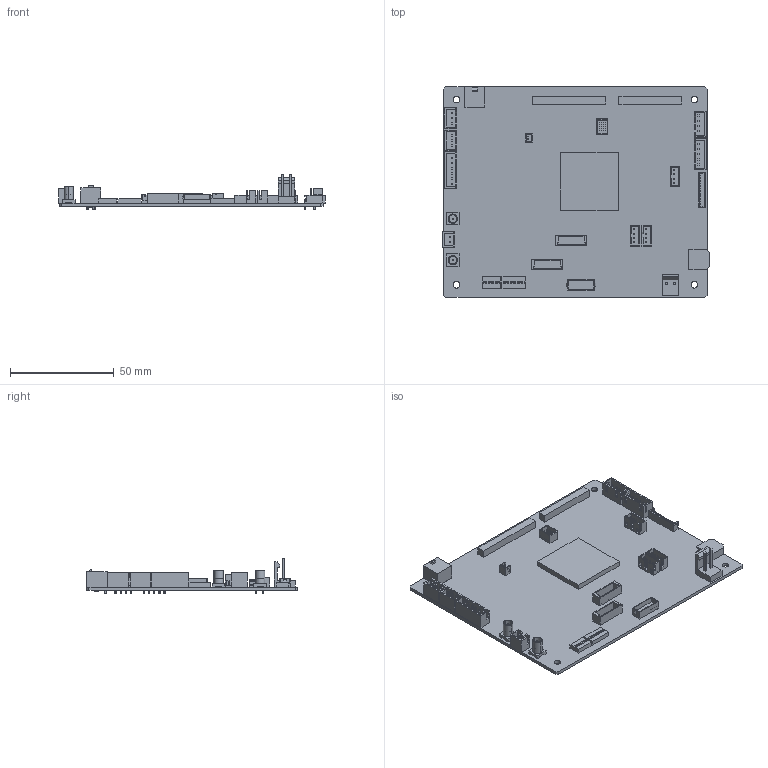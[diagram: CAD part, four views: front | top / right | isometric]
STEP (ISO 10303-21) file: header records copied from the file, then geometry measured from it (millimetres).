
FILE_DESCRIPTION (( 'STEP AP203' ), '1' );
FILE_NAME ('Assy PCB HX-2560-SDI V2 417800000-3 211101.STEP', '2021-11-02T00:32:26', ( '' ), ( '' ), 'SwSTEP 2.0', 'SolidWorks 2020', '' );
FILE_SCHEMA (( 'CONFIG_CONTROL_DESIGN' ));
Length unit declared in the file: inch
Products named in the file (21): 190010805-3 DIP Switch 8P Horz; 210010004-3 2.5-F-04p; 210082604-3 Power Plug 2x2; 212051001-3 Micro BNC SMT Vert Yin Sheng MSB-013_1C20Z6B0B0; 215090241-3 LVDS 41 pin; 210006521-5 Conn 21P Vert 1.0mm Pitch; 190010605-3 DIP Switch 6P Horz; 210010005-3 2.5-F-05p; 210010003-3 2.5-F-03p; 210061102-3 1.25-F-2P; 210010006-3 2.5-F-06p; PCB HX-2560-SDI V2 017300000-5 211027; 210018004-3 PH Conn 2.0-F-04p; 210006420-5 Conn Vert 20P; 210061112-3 1.25-F-12P; 215090251-3 LVDS 51 pin; 210010002-3 2.5-F-02p; 210062710-3 Hdr Vert 10P Dual; 210082402-3 Power 2P RA; 210082102-3 Hdr 2P Vert Lkg; Assy PCB HX-2560-SDI V2 417800000-3 211101
Assembly tree (25 placements, depth 2):
  Assy PCB HX-2560-SDI V2 417800000-3 211101
    PCB HX-2560-SDI V2 017300000-5 211027
    190010605-3 DIP Switch 6P Horz
    190010805-3 DIP Switch 8P Horz
    210010003-3 2.5-F-03p  x2
    210010004-3 2.5-F-04p
    210010005-3 2.5-F-05p
    210010006-3 2.5-F-06p
    210082102-3 Hdr 2P Vert Lkg
    210082402-3 Power 2P RA
    210082604-3 Power Plug 2x2
    215090241-3 LVDS 41 pin
    215090251-3 LVDS 51 pin
    210006521-5 Conn 21P Vert 1.0mm Pitch  x2
    210061102-3 1.25-F-2P
    210018004-3 PH Conn 2.0-F-04p  x3
    210006420-5 Conn Vert 20P
    210062710-3 Hdr Vert 10P Dual
    210010002-3 2.5-F-02p
    210061112-3 1.25-F-12P
    212051001-3 Micro BNC SMT Vert Yin Sheng MSB-013_1C20Z6B0B0  x2
Bounding box: 128.74 x 101.76 x 17.28 mm (x, y, z)
Volume: 27036.8 mm3; surface area: 38177.4 mm2
Topology: 25 solids, 25 shells, 1230 faces, 3045 edges, 2022 vertices
Faces by surface type: plane 1054, cylinder 176
Entity records: 32204 total; most frequent: CARTESIAN_POINT 5212, ORIENTED_EDGE 5010, DIRECTION 4879, EDGE_CURVE 2505, VECTOR 2221, LINE 2221, VERTEX_POINT 1662, AXIS2_PLACEMENT_3D 1329
